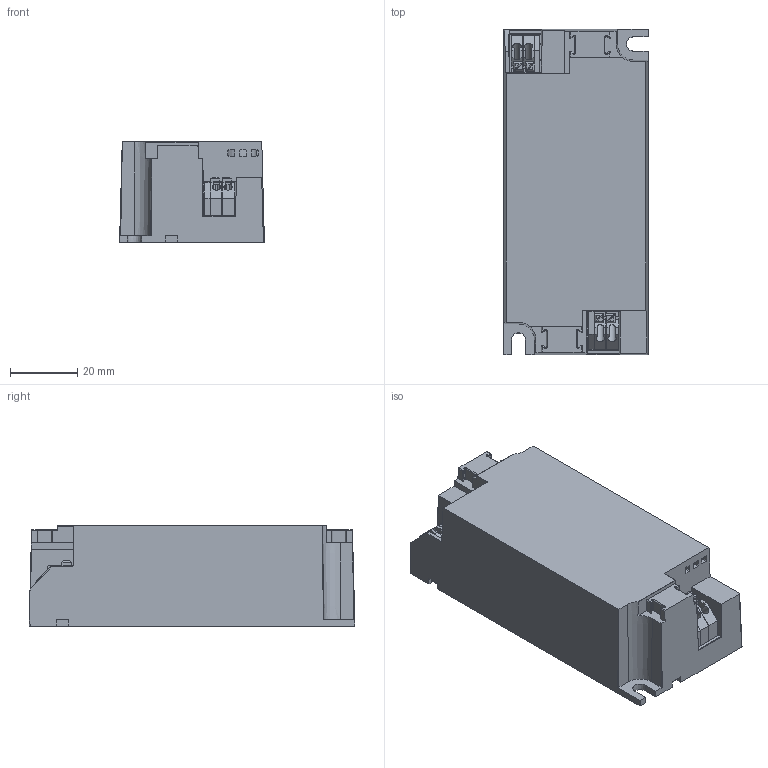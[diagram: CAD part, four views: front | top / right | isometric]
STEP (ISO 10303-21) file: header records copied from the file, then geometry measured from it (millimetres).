
FILE_DESCRIPTION(/* description */ ('Cover Xitanium 20W mini'),/* implementation_level */ '2;1');
FILE_NAME(/* name */ 'C:\Wind\Mini Simpleset\Housing\Mini simple set Build in_A.stp',/* time_stamp */ '2016-05-24T14:15:18+08:00',/* author */ ('310043586'),/* organization */ (''),/* preprocessor_version */ 'ST-DEVELOPER v15.2',/* originating_system */ 'Autodesk Inventor 2014',/* authorisation */ '');
FILE_SCHEMA (('AUTOMOTIVE_DESIGN { 1 0 10303 214 3 1 1 }'));
Products named in the file (38): 442240947611 chassis_P1; 442240922761 cover_A; 20W_Outline; cap_sllf201214_b_1; cap_179059144010_lda060_0750_r_1; dio_sub_sma_tase_b_1; fil_125075140_e080040_04p_d06_m_1; fus_085040080_lda060_0500_r_1; cap_123046119050_lda060_0500_r_1; dio_scp55352624_b_1; ind_sllf160810_b_1; pkg_sot323_b_1; cap_sllf321619_b_1; res_sllf321607_b_1; res_sllf160805_b_1; barcode_057x057_silk_cl3_1; cap_sllf321614_b_1; cep_d105220_lda060_0500_r_1; pcb_mod_442236725741_m_1; cap_sllf321610_b_1; dio_do219ab_b_1; dio_sod323_b_1; dio_scp52252917_b_2; CONNECTOR_ODD_WAGO250_2P_V2_25-04-14_13.4; pcb_mod_antenna_02p_m_1; CONNECTOR_ODD_WAGO250_2P_V1_01-11-11_13.2; push_marker_ict_060_cl3; dio_abs_tase_b_1; trf_175120190_e075075_04p_d06_m_1; res_o070050105035_ldb060_0500_r_1; dio_scp52252917_b_1; trf_170170210_e038113_04p_d09_m_1; pkg_to220fp_bend4766_m_1; cap_safe_o100070130030_vki060_1000_m_1; trf_215260220_e177200_09p_d07_m_1_TEMP_JV_L300; pkg_to220ab_bend4766_m_1; 20W; Mini simple set indepent_A
Bounding box: 43.2 x 97.2 x 30 mm (x, y, z)
Volume: 65620.5 mm3; surface area: 64201.7 mm2
Topology: 70 solids, 70 shells, 1353 faces, 3465 edges, 2263 vertices
Faces by surface type: plane 1072, cylinder 184, bspline 73, cone 16, torus 8
Full cylindrical faces by diameter (mm): 1.7 x4, 2.5 x4, 6 x5, 10.9 x1
Entity records: 38404 total; most frequent: CARTESIAN_POINT 8008, ORIENTED_EDGE 6182, DIRECTION 5802, EDGE_CURVE 3091, LINE 2516, VECTOR 2516, VERTEX_POINT 2023, AXIS2_PLACEMENT_3D 1643
